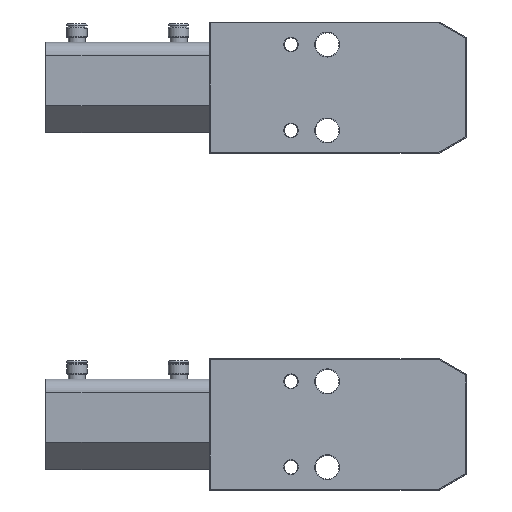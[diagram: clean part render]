
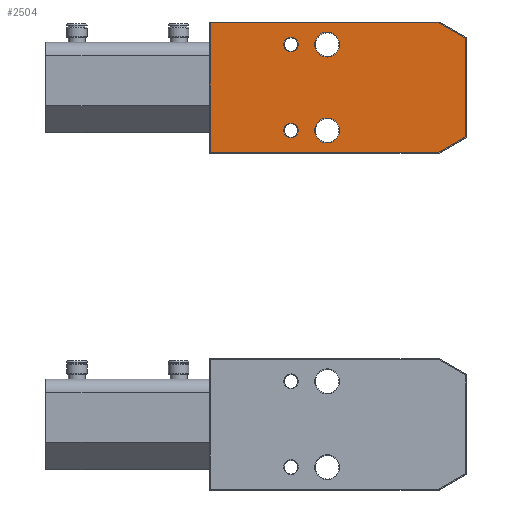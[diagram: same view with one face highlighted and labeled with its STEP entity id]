
A CAD part, top view. The second image highlights one B-rep face of the part: STEP entity #2504.
In plain terms, the highlighted planar face has unit normal (0, 0, 1).
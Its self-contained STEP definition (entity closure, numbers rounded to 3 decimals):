
#2504=ADVANCED_FACE('',(#5105,#5106,#5107,#5108,#5109),#5110,.T.);
#5105=FACE_OUTER_BOUND('',#8091,.T.);
#5106=FACE_BOUND('',#8092,.T.);
#5107=FACE_BOUND('',#8093,.T.);
#5108=FACE_BOUND('',#8094,.T.);
#5109=FACE_BOUND('',#8095,.T.);
#5110=PLANE('',#8096);
#8091=EDGE_LOOP('',(#15594,#15595,#15596,#15597,#15598,#15599));
#8092=EDGE_LOOP('',(#15600));
#8093=EDGE_LOOP('',(#15601));
#8094=EDGE_LOOP('',(#15602));
#8095=EDGE_LOOP('',(#15603));
#8096=AXIS2_PLACEMENT_3D('',#15604,#15605,#15606);
#15594=ORIENTED_EDGE('',*,*,#17596,.T.);
#15595=ORIENTED_EDGE('',*,*,#18417,.T.);
#15596=ORIENTED_EDGE('',*,*,#18188,.T.);
#15597=ORIENTED_EDGE('',*,*,#18411,.T.);
#15598=ORIENTED_EDGE('',*,*,#17738,.T.);
#15599=ORIENTED_EDGE('',*,*,#18193,.T.);
#15600=ORIENTED_EDGE('',*,*,#18409,.T.);
#15601=ORIENTED_EDGE('',*,*,#18413,.T.);
#15602=ORIENTED_EDGE('',*,*,#18147,.T.);
#15603=ORIENTED_EDGE('',*,*,#18415,.T.);
#15604=CARTESIAN_POINT('',(1499.5,139.0,47.));
#15605=DIRECTION('',(0.,0.,1.0));
#15606=DIRECTION('',(0.0,-1.0,0.));
#17596=EDGE_CURVE('',#21400,#21398,#21401,.T.);
#17738=EDGE_CURVE('',#21631,#21632,#21633,.T.);
#18147=EDGE_CURVE('',#22233,#22233,#22234,.T.);
#18188=EDGE_CURVE('',#22285,#22286,#22287,.T.);
#18193=EDGE_CURVE('',#21632,#21400,#22294,.T.);
#18409=EDGE_CURVE('',#22561,#22561,#22562,.T.);
#18411=EDGE_CURVE('',#22286,#21631,#22564,.T.);
#18413=EDGE_CURVE('',#22566,#22566,#22567,.T.);
#18415=EDGE_CURVE('',#22569,#22569,#22570,.T.);
#18417=EDGE_CURVE('',#21398,#22285,#22572,.T.);
#21398=VERTEX_POINT('',#27393);
#21400=VERTEX_POINT('',#27396);
#21401=LINE('',#27397,#27398);
#21631=VERTEX_POINT('',#27759);
#21632=VERTEX_POINT('',#27760);
#21633=LINE('',#27761,#27762);
#22233=VERTEX_POINT('',#28770);
#22234=CIRCLE('',#28771,5.5);
#22285=VERTEX_POINT('',#28861);
#22286=VERTEX_POINT('',#28862);
#22287=LINE('',#28863,#28864);
#22294=LINE('',#28874,#28875);
#22561=VERTEX_POINT('',#29328);
#22562=CIRCLE('',#29329,3.25);
#22564=LINE('',#29331,#29332);
#22566=VERTEX_POINT('',#29334);
#22567=CIRCLE('',#29335,3.25);
#22569=VERTEX_POINT('',#29337);
#22570=CIRCLE('',#29338,5.5);
#22572=LINE('',#29340,#29341);
#27393=CARTESIAN_POINT('',(101.25,150.25,47.));
#27396=CARTESIAN_POINT('',(0.25,150.25,47.));
#27397=CARTESIAN_POINT('',(96.113,150.25,47.));
#27398=VECTOR('',#30677,1.0);
#27759=CARTESIAN_POINT('',(101.25,207.75,47.));
#27760=CARTESIAN_POINT('',(0.25,207.75,47.));
#27761=CARTESIAN_POINT('',(-22.25,207.75,47.));
#27762=VECTOR('',#30779,1.0);
#28770=CARTESIAN_POINT('',(46.5,160.0,47.));
#28771=AXIS2_PLACEMENT_3D('',#30999,#31000,#31001);
#28861=CARTESIAN_POINT('',(113.25,157.178,47.));
#28862=CARTESIAN_POINT('',(113.25,200.822,47.));
#28863=CARTESIAN_POINT('',(113.25,197.856,47.));
#28864=VECTOR('',#31015,1.0);
#28874=CARTESIAN_POINT('',(0.25,150.25,47.));
#28875=VECTOR('',#31019,1.0);
#29328=CARTESIAN_POINT('',(32.75,160.0,47.));
#29329=AXIS2_PLACEMENT_3D('',#31159,#31160,#31161);
#29331=CARTESIAN_POINT('',(1179.707,-414.898,47.));
#29332=VECTOR('',#31162,1.0);
#29334=CARTESIAN_POINT('',(32.75,198.0,47.));
#29335=AXIS2_PLACEMENT_3D('',#31163,#31164,#31165);
#29337=CARTESIAN_POINT('',(46.5,198.0,47.));
#29338=AXIS2_PLACEMENT_3D('',#31166,#31167,#31168);
#29340=CARTESIAN_POINT('',(1145.066,752.898,47.));
#29341=VECTOR('',#31169,1.0);
#30677=DIRECTION('',(1.0,0.0,0.));
#30779=DIRECTION('',(-1.0,0.0,0.));
#30999=CARTESIAN_POINT('',(52.0,160.0,47.));
#31000=DIRECTION('',(0.,0.,-1.0));
#31001=DIRECTION('',(-1.0,0.0,0.));
#31015=DIRECTION('',(0.0,1.0,0.));
#31019=DIRECTION('',(0.0,-1.0,0.));
#31159=CARTESIAN_POINT('',(36.0,160.0,47.));
#31160=DIRECTION('',(0.,0.,-1.0));
#31161=DIRECTION('',(-1.0,0.0,0.));
#31162=DIRECTION('',(-0.866,0.5,0.));
#31163=CARTESIAN_POINT('',(36.0,198.0,47.));
#31164=DIRECTION('',(0.,0.,-1.0));
#31165=DIRECTION('',(-1.0,0.0,0.));
#31166=CARTESIAN_POINT('',(52.0,198.0,47.));
#31167=DIRECTION('',(0.,0.,-1.0));
#31168=DIRECTION('',(-1.0,0.0,0.));
#31169=DIRECTION('',(0.866,0.5,0.));
